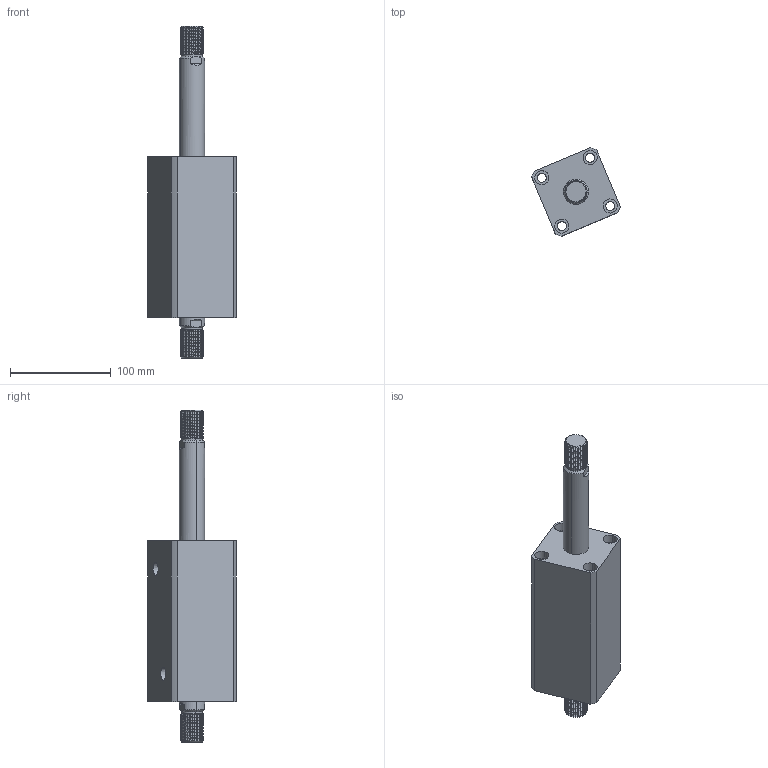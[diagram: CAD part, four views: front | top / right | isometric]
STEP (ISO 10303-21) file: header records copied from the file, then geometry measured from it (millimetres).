
FILE_DESCRIPTION (( 'STEP AP214' ), '1' );
FILE_NAME ('chtb-sw40x90w_asm.STEP', '2018-06-08T10:37:06', ( 'Windows' ), ( 'Microsoft' ), 'SwSTEP 2.0', 'SolidWorks 2015', '' );
FILE_SCHEMA (( 'AUTOMOTIVE_DESIGN' ));
Length unit declared in the file: millimetre
Products named in the file (4): CHTB-SW40X90NHSG; CHTB-SW40X90NBT; CHTB-SD40QG; chtb-sw40x90w_asm
Assembly tree (3 placements, depth 2):
  chtb-sw40x90w_asm
    CHTB-SD40QG
    CHTB-SW40X90NBT
    CHTB-SW40X90NHSG
Bounding box: 88.11 x 88.11 x 330 mm (x, y, z)
Volume: 732007.6 mm3; surface area: 132592 mm2
Topology: 3 solids, 3 shells, 254 faces, 680 edges, 452 vertices
Faces by surface type: cylinder 160, plane 46, bspline 18, cone 18, torus 12
Entity records: 17389 total; most frequent: CARTESIAN_POINT 11402, ORIENTED_EDGE 1348, DIRECTION 1094, EDGE_CURVE 674, VERTEX_POINT 452, AXIS2_PLACEMENT_3D 443, EDGE_LOOP 296, FACE_OUTER_BOUND 254
